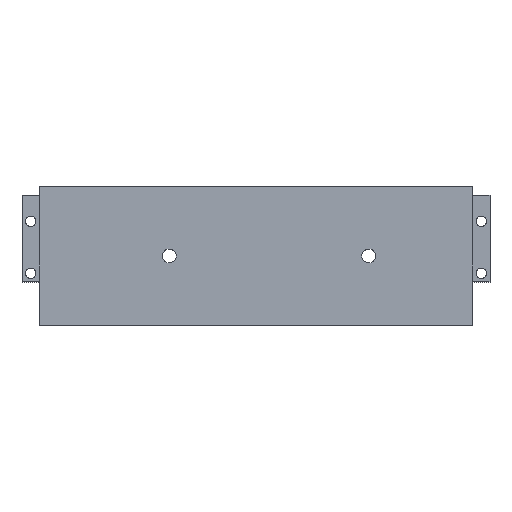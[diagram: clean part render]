
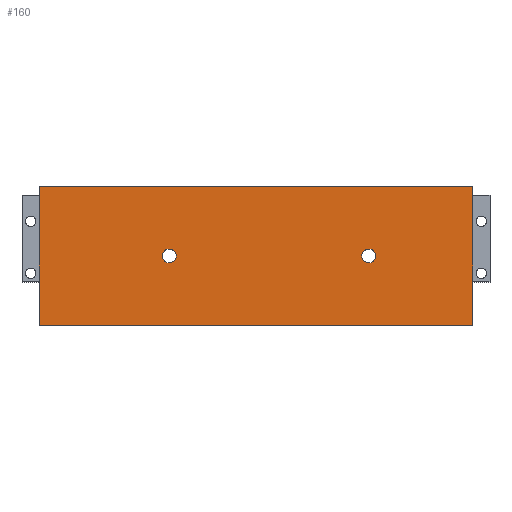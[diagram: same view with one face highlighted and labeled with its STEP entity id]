
A CAD part, top view. The second image highlights one B-rep face of the part: STEP entity #160.
In plain terms, the highlighted planar face has unit normal (0, 0, 1).
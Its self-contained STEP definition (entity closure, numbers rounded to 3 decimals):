
#32 = VERTEX_POINT('',#33);
#33 = CARTESIAN_POINT('',(10.,0.,30.));
#39 = EDGE_CURVE('',#32,#40,#42,.T.);
#40 = VERTEX_POINT('',#41);
#41 = CARTESIAN_POINT('',(260.,0.,30.));
#42 = LINE('',#43,#44);
#43 = CARTESIAN_POINT('',(0.,0.,30.));
#44 = VECTOR('',#45,1.);
#45 = DIRECTION('',(1.,0.,0.));
#92 = EDGE_CURVE('',#40,#93,#95,.T.);
#93 = VERTEX_POINT('',#94);
#94 = CARTESIAN_POINT('',(260.,80.,30.));
#95 = LINE('',#96,#97);
#96 = CARTESIAN_POINT('',(260.,0.,30.));
#97 = VECTOR('',#98,1.);
#98 = DIRECTION('',(0.,1.,0.));
#160 = ADVANCED_FACE('',(#161,#179,#190),#201,.T.);
#161 = FACE_BOUND('',#162,.T.);
#162 = EDGE_LOOP('',(#163,#171,#172,#173));
#163 = ORIENTED_EDGE('',*,*,#164,.T.);
#164 = EDGE_CURVE('',#165,#32,#167,.T.);
#165 = VERTEX_POINT('',#166);
#166 = CARTESIAN_POINT('',(10.,80.,30.));
#167 = LINE('',#168,#169);
#168 = CARTESIAN_POINT('',(10.,80.,30.));
#169 = VECTOR('',#170,1.);
#170 = DIRECTION('',(0.,-1.,0.));
#171 = ORIENTED_EDGE('',*,*,#39,.T.);
#172 = ORIENTED_EDGE('',*,*,#92,.T.);
#173 = ORIENTED_EDGE('',*,*,#174,.T.);
#174 = EDGE_CURVE('',#93,#165,#175,.T.);
#175 = LINE('',#176,#177);
#176 = CARTESIAN_POINT('',(270.,80.,30.));
#177 = VECTOR('',#178,1.);
#178 = DIRECTION('',(-1.,0.,0.));
#179 = FACE_BOUND('',#180,.T.);
#180 = EDGE_LOOP('',(#181));
#181 = ORIENTED_EDGE('',*,*,#182,.F.);
#182 = EDGE_CURVE('',#183,#183,#185,.T.);
#183 = VERTEX_POINT('',#184);
#184 = CARTESIAN_POINT('',(89.,40.,30.));
#185 = CIRCLE('',#186,4.);
#186 = AXIS2_PLACEMENT_3D('',#187,#188,#189);
#187 = CARTESIAN_POINT('',(85.,40.,30.));
#188 = DIRECTION('',(0.,0.,1.));
#189 = DIRECTION('',(1.,0.,0.));
#190 = FACE_BOUND('',#191,.T.);
#191 = EDGE_LOOP('',(#192));
#192 = ORIENTED_EDGE('',*,*,#193,.F.);
#193 = EDGE_CURVE('',#194,#194,#196,.T.);
#194 = VERTEX_POINT('',#195);
#195 = CARTESIAN_POINT('',(204.,40.,30.));
#196 = CIRCLE('',#197,4.);
#197 = AXIS2_PLACEMENT_3D('',#198,#199,#200);
#198 = CARTESIAN_POINT('',(200.,40.,30.));
#199 = DIRECTION('',(0.,0.,1.));
#200 = DIRECTION('',(1.,0.,0.));
#201 = PLANE('',#202);
#202 = AXIS2_PLACEMENT_3D('',#203,#204,#205);
#203 = CARTESIAN_POINT('',(135.,40.,30.));
#204 = DIRECTION('',(0.,0.,1.));
#205 = DIRECTION('',(1.,0.,0.));
